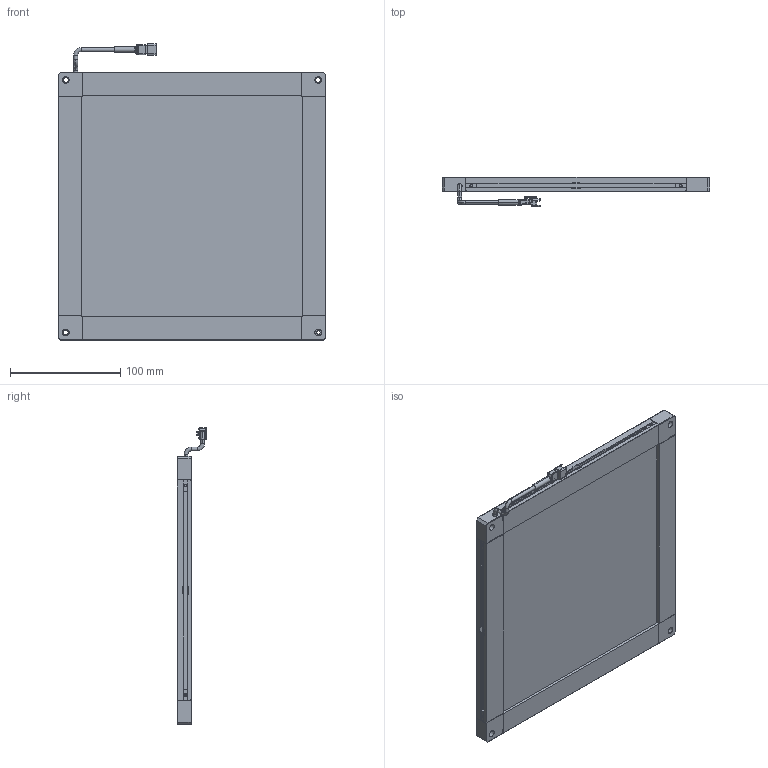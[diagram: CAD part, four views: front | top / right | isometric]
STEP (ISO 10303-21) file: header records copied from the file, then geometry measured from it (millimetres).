
FILE_DESCRIPTION (( 'STEP AP203' ), '1' );
FILE_NAME ('UA21747.STEP', '2020-11-09T02:05:55', ( 'CCS' ), ( 'シーシーエス株式会社' ), 'SwSTEP 2.0', 'SolidWorks 2017', '' );
FILE_SCHEMA (( 'CONFIG_CONTROL_DESIGN' ));
Length unit declared in the file: millimetre
Products named in the file (1): UA21747
Bounding box: 243 x 27.1 x 268.85 mm (x, y, z)
Surface area: 157779.6 mm2 (no closed solid volume)
Topology: 0 solids, 28 shells, 556 faces, 1821 edges, 1274 vertices
Faces by surface type: plane 372, cylinder 100, bspline 32, cone 30, torus 22
Entity records: 21008 total; most frequent: CARTESIAN_POINT 5421, DIRECTION 3114, ORIENTED_EDGE 2865, EDGE_CURVE 1821, LINE 1392, VECTOR 1392, VERTEX_POINT 1274, AXIS2_PLACEMENT_3D 861
